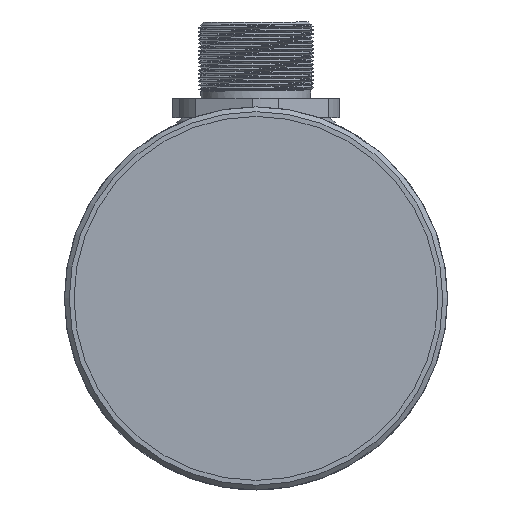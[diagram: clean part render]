
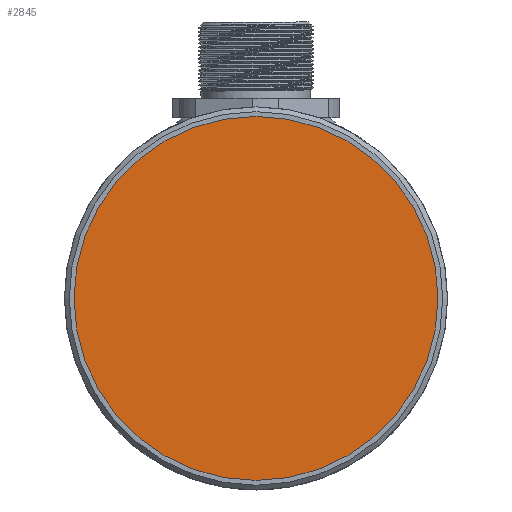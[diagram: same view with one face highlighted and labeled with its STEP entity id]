
A CAD part, left-side view. The second image highlights one B-rep face of the part: STEP entity #2845.
In plain terms, the highlighted planar face has unit normal (-1, 0, 0).
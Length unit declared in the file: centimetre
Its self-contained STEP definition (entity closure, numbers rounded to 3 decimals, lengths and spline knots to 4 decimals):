
#674=PLANE('',#3028);
#740=CIRCLE('',#3026,1.9);
#1066=VERTEX_POINT('',#3812);
#1387=EDGE_CURVE('',#1066,#1066,#740,.T.);
#1749=ORIENTED_EDGE('',*,*,#1387,.T.);
#2421=EDGE_LOOP('',(#1749));
#2636=FACE_BOUND('',#2421,.T.);
#2845=ADVANCED_FACE('',(#2636),#674,.T.);
#3026=AXIS2_PLACEMENT_3D('',#3811,#3257,#3258);
#3028=AXIS2_PLACEMENT_3D('',#3815,#3261,$);
#3257=DIRECTION('',(-1.,0.,0.));
#3258=DIRECTION('',(0.,0.,1.9));
#3261=DIRECTION('',(-1.,0.,0.));
#3811=CARTESIAN_POINT('',(0.1,0.,0.));
#3812=CARTESIAN_POINT('',(0.1,0.,1.9));
#3815=CARTESIAN_POINT('',(0.1,0.,0.));
